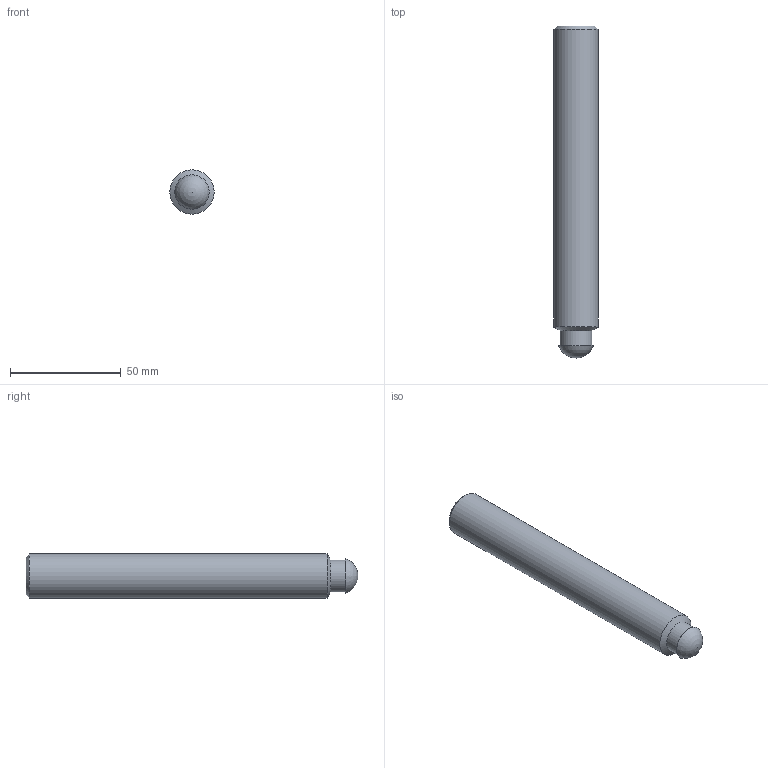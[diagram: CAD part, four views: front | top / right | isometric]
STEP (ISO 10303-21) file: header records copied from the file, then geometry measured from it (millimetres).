
FILE_DESCRIPTION( ( 'STEP AP203' ), '1' );
FILE_NAME( 'C:/Temp/Ganter_Step_05_03_2020/data/3_2/din6332/din6332_zb/Grub screw DIN 6332-M20-150-SKN-ZB.stp', '2020-03-13T05:16:39', ( 'License CC BY-ND 4.0' ), ( 'CADENAS' ), ' ', 'PARTsolutions', ' ' );
FILE_SCHEMA( ( 'CONFIG_CONTROL_DESIGN' ) );
Length unit declared in the file: millimetre
Products named in the file (1): _Grub screw DIN 6332-M20-150-SKN-ZB
Bounding box: 20 x 150 x 20 mm (x, y, z)
Volume: 44332.3 mm3; surface area: 9769.8 mm2
Topology: 1 solids, 1 shells, 15 faces, 33 edges, 21 vertices
Faces by surface type: plane 9, cylinder 3, cone 2, sphere 1
Full cylindrical faces by diameter (mm): 14.4 x1, 15.5 x1, 20 x1
Entity records: 410 total; most frequent: DIRECTION 64, CARTESIAN_POINT 61, ORIENTED_EDGE 50, EDGE_CURVE 25, AXIS2_PLACEMENT_3D 23, EDGE_LOOP 22, VERTEX_POINT 20, FACE_OUTER_BOUND 18
